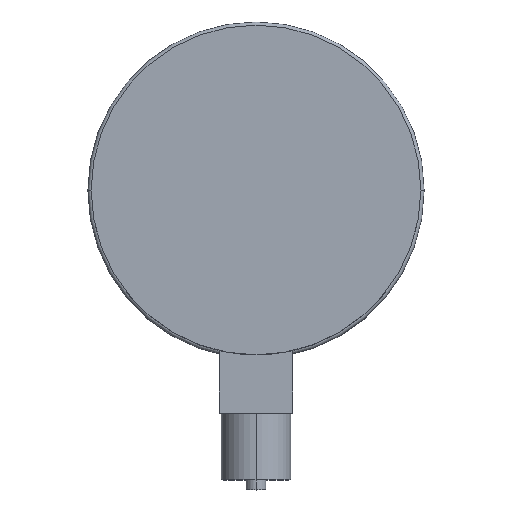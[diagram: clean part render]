
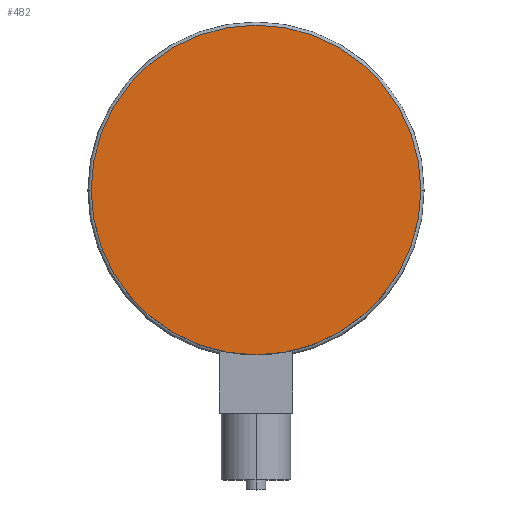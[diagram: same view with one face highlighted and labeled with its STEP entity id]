
A CAD part, top view. The second image highlights one B-rep face of the part: STEP entity #482.
In plain terms, the highlighted planar face has unit normal (0, 0, 1).
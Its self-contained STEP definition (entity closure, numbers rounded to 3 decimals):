
#66 = EDGE_CURVE ( 'NONE', #111, #144, #477, .T. ) ;
#111 = VERTEX_POINT ( 'NONE', #758 ) ;
#130 = DIRECTION ( 'NONE',  ( 1., 0., 0. ) ) ;
#136 = FACE_OUTER_BOUND ( 'NONE', #142, .T. ) ;
#142 = EDGE_LOOP ( 'NONE', ( #388, #568 ) ) ;
#144 = VERTEX_POINT ( 'NONE', #620 ) ;
#224 = AXIS2_PLACEMENT_3D ( 'NONE', #251, #819, #130 ) ;
#251 = CARTESIAN_POINT ( 'NONE',  ( 0., 0., 49. ) ) ;
#301 = DIRECTION ( 'NONE',  ( 1., 0., 0. ) ) ;
#347 = EDGE_CURVE ( 'NONE', #144, #111, #472, .T. ) ;
#388 = ORIENTED_EDGE ( 'NONE', *, *, #347, .T. ) ;
#389 = CARTESIAN_POINT ( 'NONE',  ( 0., 0., 49. ) ) ;
#393 = DIRECTION ( 'NONE',  ( 1., 0., 0. ) ) ;
#472 = CIRCLE ( 'NONE', #742, 49.5 ) ;
#477 = CIRCLE ( 'NONE', #224, 49.5 ) ;
#482 = ADVANCED_FACE ( 'NONE', ( #136 ), #708, .T. ) ;
#521 = AXIS2_PLACEMENT_3D ( 'NONE', #389, #644, #393 ) ;
#568 = ORIENTED_EDGE ( 'NONE', *, *, #66, .T. ) ;
#617 = CARTESIAN_POINT ( 'NONE',  ( 0., 0., 49. ) ) ;
#620 = CARTESIAN_POINT ( 'NONE',  ( -49.5, 0., 49. ) ) ;
#644 = DIRECTION ( 'NONE',  ( 0., 0., 1. ) ) ;
#708 = PLANE ( 'NONE',  #521 ) ;
#742 = AXIS2_PLACEMENT_3D ( 'NONE', #617, #750, #301 ) ;
#750 = DIRECTION ( 'NONE',  ( 0., 0., 1. ) ) ;
#758 = CARTESIAN_POINT ( 'NONE',  ( 49.5, 0., 49. ) ) ;
#819 = DIRECTION ( 'NONE',  ( 0., 0., 1. ) ) ;
